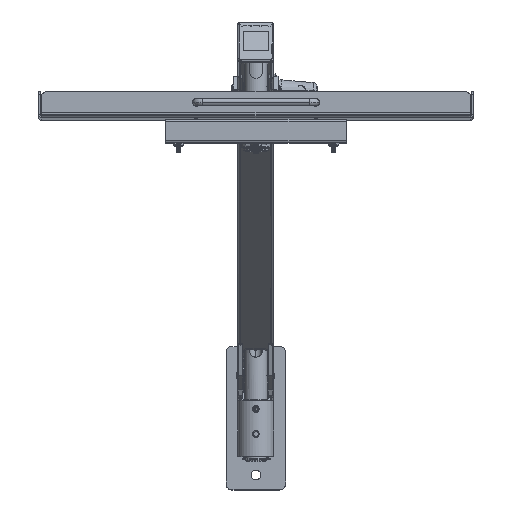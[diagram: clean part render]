
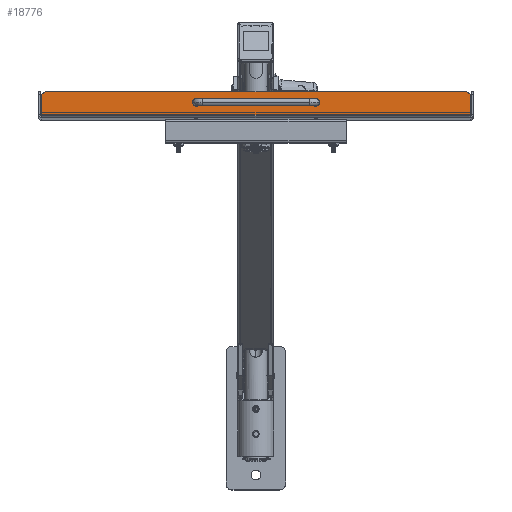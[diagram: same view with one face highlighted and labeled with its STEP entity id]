
A CAD part, top view. The second image highlights one B-rep face of the part: STEP entity #18776.
In plain terms, the highlighted planar face has unit normal (0, 0.007, 1) as drawn and (0, 0, 1) by its records, which use the part's own axes.
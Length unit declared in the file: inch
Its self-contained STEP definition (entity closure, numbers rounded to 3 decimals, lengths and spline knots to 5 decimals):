
#404 = VERTEX_POINT ( 'NONE', #78257 ) ;
#617 = CARTESIAN_POINT ( 'NONE',  ( -8.96464, 0.75, 6.09 ) ) ;
#1953 = AXIS2_PLACEMENT_3D ( 'NONE', #30460, #56033, #12393 ) ;
#2014 = DIRECTION ( 'NONE',  ( 0., -1., 0. ) ) ;
#3273 = CIRCLE ( 'NONE', #1953, 0.25 ) ;
#3815 = VECTOR ( 'NONE', #82109, 39.37008 ) ;
#3927 = CIRCLE ( 'NONE', #20047, 0.1005 ) ;
#4344 = VERTEX_POINT ( 'NONE', #42457 ) ;
#4368 = CARTESIAN_POINT ( 'NONE',  ( 8.75, 0.75, 6.09 ) ) ;
#7327 = CARTESIAN_POINT ( 'NONE',  ( 8.96464, 0.75, 6.09 ) ) ;
#7463 = VERTEX_POINT ( 'NONE', #77762 ) ;
#10901 = CARTESIAN_POINT ( 'NONE',  ( 8.75, 1., 6.09 ) ) ;
#11650 = ORIENTED_EDGE ( 'NONE', *, *, #53585, .T. ) ;
#12293 = CARTESIAN_POINT ( 'NONE',  ( -8.96464, 0.032, 6.09 ) ) ;
#12393 = DIRECTION ( 'NONE',  ( 0., -1., 0. ) ) ;
#12465 = EDGE_LOOP ( 'NONE', ( #53714, #40247 ) ) ;
#13716 = ORIENTED_EDGE ( 'NONE', *, *, #68362, .F. ) ;
#14055 = CARTESIAN_POINT ( 'NONE',  ( 2.6005, 0.55, 6.09 ) ) ;
#14855 = LINE ( 'NONE', #617, #60321 ) ;
#16129 = DIRECTION ( 'NONE',  ( 0., 0., 1. ) ) ;
#16449 = EDGE_LOOP ( 'NONE', ( #58879, #28701, #13716, #78986, #16482, #49852 ) ) ;
#16482 = ORIENTED_EDGE ( 'NONE', *, *, #72157, .T. ) ;
#16538 = FACE_OUTER_BOUND ( 'NONE', #16449, .T. ) ;
#17999 = EDGE_CURVE ( 'NONE', #404, #77861, #3927, .T. ) ;
#18028 = CIRCLE ( 'NONE', #70208, 0.25 ) ;
#18776 = ADVANCED_FACE ( 'NONE', ( #33483, #16538, #61829 ), #55118, .T. ) ;
#19849 = CARTESIAN_POINT ( 'NONE',  ( 2.5, 0.55, 6.09 ) ) ;
#20047 = AXIS2_PLACEMENT_3D ( 'NONE', #54064, #40687, #59964 ) ;
#20492 = CARTESIAN_POINT ( 'NONE',  ( 2.5, 0.55, 6.09 ) ) ;
#27559 = DIRECTION ( 'NONE',  ( 1., 0., 0. ) ) ;
#28701 = ORIENTED_EDGE ( 'NONE', *, *, #36209, .F. ) ;
#28706 = CARTESIAN_POINT ( 'NONE',  ( 2.3995, 0.55, 6.09 ) ) ;
#29460 = VERTEX_POINT ( 'NONE', #10901 ) ;
#30460 = CARTESIAN_POINT ( 'NONE',  ( -8.75, 0.75, 6.09 ) ) ;
#30946 = LINE ( 'NONE', #56505, #3815 ) ;
#33481 = EDGE_CURVE ( 'NONE', #78277, #82027, #54339, .T. ) ;
#33483 = FACE_BOUND ( 'NONE', #12465, .T. ) ;
#33733 = ORIENTED_EDGE ( 'NONE', *, *, #33481, .T. ) ;
#36209 = EDGE_CURVE ( 'NONE', #29460, #69300, #18028, .T. ) ;
#38936 = CARTESIAN_POINT ( 'NONE',  ( 8.75, 0.032, 6.09 ) ) ;
#39154 = DIRECTION ( 'NONE',  ( 0., 0., -1. ) ) ;
#39429 = EDGE_CURVE ( 'NONE', #43817, #7463, #3273, .T. ) ;
#40247 = ORIENTED_EDGE ( 'NONE', *, *, #57357, .T. ) ;
#40622 = DIRECTION ( 'NONE',  ( -1., 0., 0. ) ) ;
#40687 = DIRECTION ( 'NONE',  ( 0., 0., -1. ) ) ;
#40829 = CIRCLE ( 'NONE', #62249, 0.1005 ) ;
#41038 = DIRECTION ( 'NONE',  ( 0., 0., -1. ) ) ;
#42457 = CARTESIAN_POINT ( 'NONE',  ( 8.96464, 0.032, 6.09 ) ) ;
#42773 = EDGE_CURVE ( 'NONE', #69300, #4344, #76946, .T. ) ;
#43817 = VERTEX_POINT ( 'NONE', #52529 ) ;
#45312 = DIRECTION ( 'NONE',  ( -1., 0., 0. ) ) ;
#45634 = LINE ( 'NONE', #38936, #72005 ) ;
#46360 = AXIS2_PLACEMENT_3D ( 'NONE', #19849, #39154, #57178 ) ;
#47611 = DIRECTION ( 'NONE',  ( 0., -1., 0. ) ) ;
#49852 = ORIENTED_EDGE ( 'NONE', *, *, #66339, .T. ) ;
#52413 = CARTESIAN_POINT ( 'NONE',  ( -2.5, 0.55, 6.09 ) ) ;
#52529 = CARTESIAN_POINT ( 'NONE',  ( -8.96464, 0.87817, 6.09 ) ) ;
#53585 = EDGE_CURVE ( 'NONE', #82027, #78277, #82084, .T. ) ;
#53714 = ORIENTED_EDGE ( 'NONE', *, *, #17999, .T. ) ;
#54064 = CARTESIAN_POINT ( 'NONE',  ( -2.5, 0.55, 6.09 ) ) ;
#54339 = CIRCLE ( 'NONE', #46360, 0.1005 ) ;
#55118 = PLANE ( 'NONE',  #70988 ) ;
#55830 = VECTOR ( 'NONE', #65192, 39.37008 ) ;
#56033 = DIRECTION ( 'NONE',  ( 0., 0., -1. ) ) ;
#56505 = CARTESIAN_POINT ( 'NONE',  ( 8.75, 1., 6.09 ) ) ;
#57178 = DIRECTION ( 'NONE',  ( -1., 0., 0. ) ) ;
#57357 = EDGE_CURVE ( 'NONE', #77861, #404, #40829, .T. ) ;
#58879 = ORIENTED_EDGE ( 'NONE', *, *, #42773, .F. ) ;
#59485 = CARTESIAN_POINT ( 'NONE',  ( 8.75, 0.75, 6.09 ) ) ;
#59964 = DIRECTION ( 'NONE',  ( -1., 0., 0. ) ) ;
#60321 = VECTOR ( 'NONE', #66000, 39.37008 ) ;
#61829 = FACE_BOUND ( 'NONE', #72171, .T. ) ;
#62249 = AXIS2_PLACEMENT_3D ( 'NONE', #52413, #63737, #45312 ) ;
#63737 = DIRECTION ( 'NONE',  ( 0., 0., -1. ) ) ;
#65192 = DIRECTION ( 'NONE',  ( 0., -1., 0. ) ) ;
#66000 = DIRECTION ( 'NONE',  ( 0., -1., 0. ) ) ;
#66339 = EDGE_CURVE ( 'NONE', #76026, #4344, #45634, .T. ) ;
#66989 = DIRECTION ( 'NONE',  ( 0., 0., -1. ) ) ;
#68362 = EDGE_CURVE ( 'NONE', #7463, #29460, #30946, .T. ) ;
#68718 = AXIS2_PLACEMENT_3D ( 'NONE', #20492, #41038, #40622 ) ;
#69300 = VERTEX_POINT ( 'NONE', #80122 ) ;
#70208 = AXIS2_PLACEMENT_3D ( 'NONE', #59485, #66989, #2014 ) ;
#70988 = AXIS2_PLACEMENT_3D ( 'NONE', #4368, #16129, #47611 ) ;
#72005 = VECTOR ( 'NONE', #27559, 39.37008 ) ;
#72157 = EDGE_CURVE ( 'NONE', #43817, #76026, #14855, .T. ) ;
#72171 = EDGE_LOOP ( 'NONE', ( #33733, #11650 ) ) ;
#76026 = VERTEX_POINT ( 'NONE', #12293 ) ;
#76946 = LINE ( 'NONE', #7327, #55830 ) ;
#77762 = CARTESIAN_POINT ( 'NONE',  ( -8.75, 1., 6.09 ) ) ;
#77861 = VERTEX_POINT ( 'NONE', #79517 ) ;
#78257 = CARTESIAN_POINT ( 'NONE',  ( -2.3995, 0.55, 6.09 ) ) ;
#78277 = VERTEX_POINT ( 'NONE', #14055 ) ;
#78986 = ORIENTED_EDGE ( 'NONE', *, *, #39429, .F. ) ;
#79517 = CARTESIAN_POINT ( 'NONE',  ( -2.6005, 0.55, 6.09 ) ) ;
#80122 = CARTESIAN_POINT ( 'NONE',  ( 8.96464, 0.87817, 6.09 ) ) ;
#82027 = VERTEX_POINT ( 'NONE', #28706 ) ;
#82084 = CIRCLE ( 'NONE', #68718, 0.1005 ) ;
#82109 = DIRECTION ( 'NONE',  ( 1., 0., 0. ) ) ;
